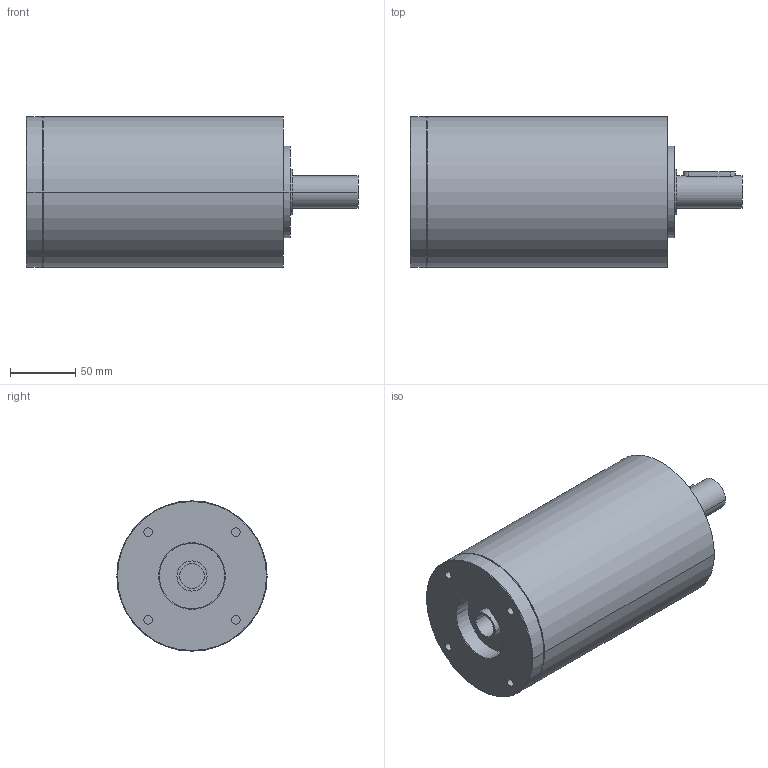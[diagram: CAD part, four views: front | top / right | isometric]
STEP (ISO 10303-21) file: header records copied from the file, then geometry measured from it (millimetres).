
FILE_DESCRIPTION(('CoCreate Modeling STEP Export'),'2;1');
FILE_NAME('GPR125_ig-48-64-80-100-140-196-245-343_25_B14_19_P19.stp','2014-08-26T14:21:56',(''),(''),'CoCreate Modeling STEP processor for AP214 (Solid Model)','CoCreate Modeling 16.00C 25-Feb-2009 (C) Parametric Technology GmbH','');
FILE_SCHEMA(('AUTOMOTIVE_DESIGN { 1 0 10303 214 1 1 1 1 }'));
Length unit declared in the file: millimetre
Products named in the file (2): GPR125_ig-48-64-80-100-140-196-245-343_25_B14_19_P19
Assembly tree (1 placements, depth 2):
  GPR125_ig-48-64-80-100-140-196-245-343_25_B14_19_P19
    GPR125_ig-48-64-80-100-140-196-245-343_25_B14_19_P19
Bounding box: 254 x 115 x 115 mm (x, y, z)
Volume: 2052776.4 mm3; surface area: 106006.8 mm2
Topology: 1 solids, 1 shells, 66 faces, 164 edges, 114 vertices
Faces by surface type: cylinder 36, plane 20, cone 10
Entity records: 1675 total; most frequent: ORIENTED_EDGE 324, CARTESIAN_POINT 316, DIRECTION 216, EDGE_CURVE 162, VERTEX_POINT 114, AXIS2_PLACEMENT_3D 82, EDGE_LOOP 82, FACE_OUTER_BOUND 66
